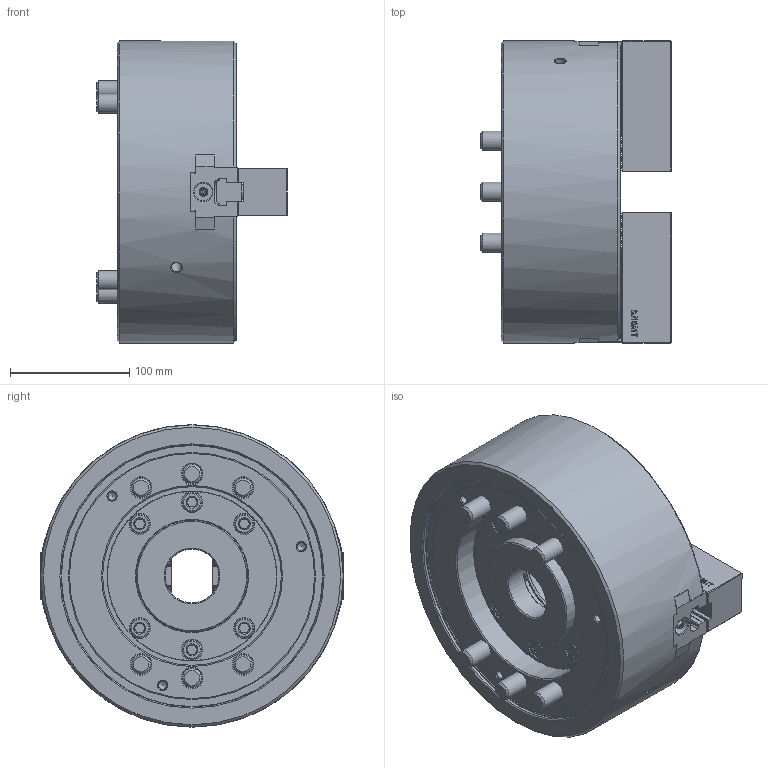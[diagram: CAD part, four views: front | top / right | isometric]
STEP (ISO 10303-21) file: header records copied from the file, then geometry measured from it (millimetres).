
FILE_DESCRIPTION (( 'STEP AP214' ), '1' );
FILE_NAME ('DT1_BT210_OUTSIDE_VIEW_UC.STEP', '2024-05-09T01:44:58', ( '' ), ( '' ), 'SwSTEP 2.0', 'SolidWorks 2022', '' );
FILE_SCHEMA (( 'AUTOMOTIVE_DESIGN' ));
Length unit declared in the file: millimetre
Products named in the file (9): DT1_B210_COVER^DT1-BT210_ﾃﾞﾌｫﾙﾄ; DT1_BT210_OUTSIDE_VIEW_UC; DT1_B210_TNUT^DT1-BT210_ﾃﾞﾌｫﾙﾄ; DT1_B210_M16x100^DT1-BT210_ﾃﾞﾌｫﾙﾄ; DT1_B210_SOFTJAW^DT1-BT210_ﾃﾞﾌｫﾙﾄ; DT1_B210_M6x10^DT1-BT210_ﾃﾞﾌｫﾙﾄ; DT1_B210_BASE^DT1-BT210_ﾃﾞﾌｫﾙﾄ; DT1_B210_DRAWNUT^DT1-BT210_ﾃﾞﾌｫﾙﾄ; DT1_B210_M12x30^DT1-BT210_ﾃﾞﾌｫﾙﾄ
Assembly tree (21 placements, depth 2):
  DT1_BT210_OUTSIDE_VIEW_UC
    DT1_B210_SOFTJAW^DT1-BT210_ﾃﾞﾌｫﾙﾄ  x2
    DT1_B210_TNUT^DT1-BT210_ﾃﾞﾌｫﾙﾄ  x2
    DT1_B210_DRAWNUT^DT1-BT210_ﾃﾞﾌｫﾙﾄ
    DT1_B210_COVER^DT1-BT210_ﾃﾞﾌｫﾙﾄ
    DT1_B210_BASE^DT1-BT210_ﾃﾞﾌｫﾙﾄ
    DT1_B210_M6x10^DT1-BT210_ﾃﾞﾌｫﾙﾄ  x4
    DT1_B210_M12x30^DT1-BT210_ﾃﾞﾌｫﾙﾄ  x4
    DT1_B210_M16x100^DT1-BT210_ﾃﾞﾌｫﾙﾄ  x6
Bounding box: 160 x 254 x 254 mm (x, y, z)
Volume: 4566196.4 mm3; surface area: 460399 mm2
Topology: 21 solids, 25 shells, 3629 faces, 10186 edges, 6709 vertices
Faces by surface type: plane 2513, cylinder 684, bspline 217, cone 194, torus 19, sphere 2
Full cylindrical faces by diameter (mm): 2 x2, 5 x4, 6 x4, 6.6 x4, 6.8 x3, 8.5 x2, 10.2 x4, 10.5 x4, 11 x4, 12 x4, 13 x4, 15 x2, 16 x6, 17 x12, 18.27 x4, 19 x4, 24.33 x6, 26 x6, 45 x1, 75 x2, 79 x2, 80 x2, 86 x1, 94 x2, 142.7 x1, 150 x1, 220 x1, 221 x1, 254 x1
Entity records: 91988 total; most frequent: CARTESIAN_POINT 26198, ORIENTED_EDGE 14788, DIRECTION 11554, EDGE_CURVE 7394, VECTOR 5534, LINE 5534, VERTEX_POINT 4960, AXIS2_PLACEMENT_3D 3010
